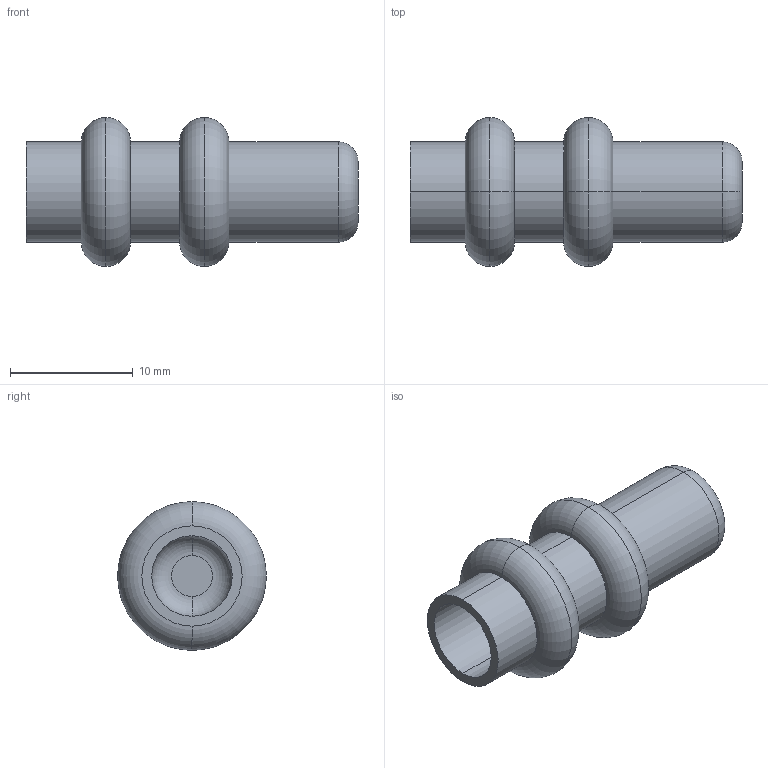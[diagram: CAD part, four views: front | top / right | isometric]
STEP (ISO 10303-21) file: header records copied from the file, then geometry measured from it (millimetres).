
FILE_DESCRIPTION(('starvars output'),'1');
FILE_NAME('cv20240422105033000011482.stp','10:50:33 2024/04/22',('Thomas Industrial Network Germany GmbH'),(' '),'Spatial InterOp 3D',' ',' ');
FILE_SCHEMA(('AUTOMOTIVE_DESIGN { 1 0 10303 214 3 1 1 }'));
Length unit declared in the file: millimetre
Products named in the file (1): 1
Bounding box: 27 x 12.1 x 12.1 mm (x, y, z)
Volume: 721.6 mm3; surface area: 1703.8 mm2
Topology: 1 solids, 1 shells, 43 faces, 84 edges, 52 vertices
Faces by surface type: torus 20, cylinder 12, plane 11
Entity records: 1502 total; most frequent: DIRECTION 244, CARTESIAN_POINT 180, ORIENTED_EDGE 168, AXIS2_PLACEMENT_3D 116, EDGE_CURVE 84, CIRCLE 72, EDGE_LOOP 52, VERTEX_POINT 52
